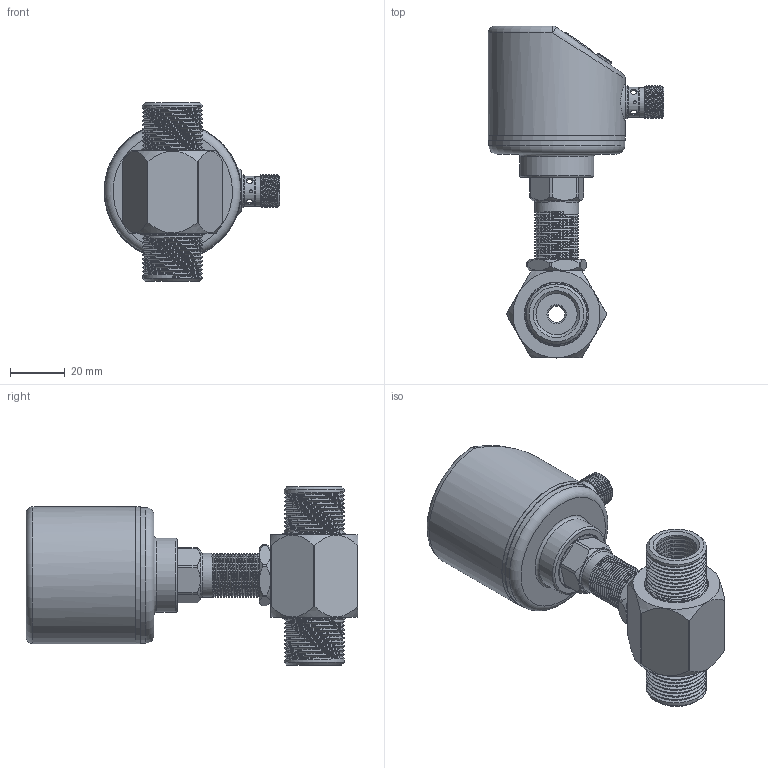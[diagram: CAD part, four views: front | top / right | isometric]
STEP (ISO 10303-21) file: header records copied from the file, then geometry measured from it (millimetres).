
FILE_DESCRIPTION (( 'STEP AP214' ), '1' );
FILE_NAME ('DN6俋杅珆.STEP', '2025-03-05T01:40:34', ( '' ), ( '' ), 'SwSTEP 2.0', 'SolidWorks 2020', '' );
FILE_SCHEMA (( 'AUTOMOTIVE_DESIGN' ));
Length unit declared in the file: millimetre
Products named in the file (11): DN6俋杅珆; 抻芛俋蹟恇G1-4; 滅阨諉芛褲极1; 恦謫抻芛5; 揤薯奻裔; 偌瑩簽; 蚾饜极2; 揤薯珆尨欶; 蹟譫1; 翋极; PVC躇猾菜
Assembly tree (12 placements, depth 3):
  DN6俋杅珆
    揤薯奻裔
    揤薯珆尨欶
    滅阨諉芛褲极1
    偌瑩簽  x3
    PVC躇猾菜
    抻芛俋蹟恇G1-4
    恦謫抻芛5
    蹟譫1
    蚾饜极2
      翋极
Bounding box: 64 x 120.9 x 65 mm (x, y, z)
Volume: 57754 mm3; surface area: 44527.9 mm2
Topology: 11 solids, 11 shells, 478 faces, 1146 edges, 746 vertices
Faces by surface type: cylinder 186, plane 174, cone 71, bspline 29, torus 14, sphere 4
Full cylindrical faces by diameter (mm): 1 x4, 1.2 x3, 1.8 x1, 2 x5, 2.5 x7, 2.8 x1, 4.3 x3, 4.5 x6, 6 x1, 7 x15, 7.2 x1, 8.5 x1, 9.75 x1, 10.5 x1, 10.7 x1, 10.8 x1, 10.9 x1, 11 x2, 12 x1, 14 x1, 14.3 x1, 14.4 x1, 14.8 x1, 15 x12, 16 x29, 17 x1, 17.34 x2, 17.4 x1, 21.24 x1, 21.3 x1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
Entity records: 27258 total; most frequent: CARTESIAN_POINT 18400, DIRECTION 1714, ORIENTED_EDGE 1518, EDGE_CURVE 759, AXIS2_PLACEMENT_3D 712, EDGE_LOOP 612, VERTEX_POINT 553, FACE_OUTER_BOUND 474
